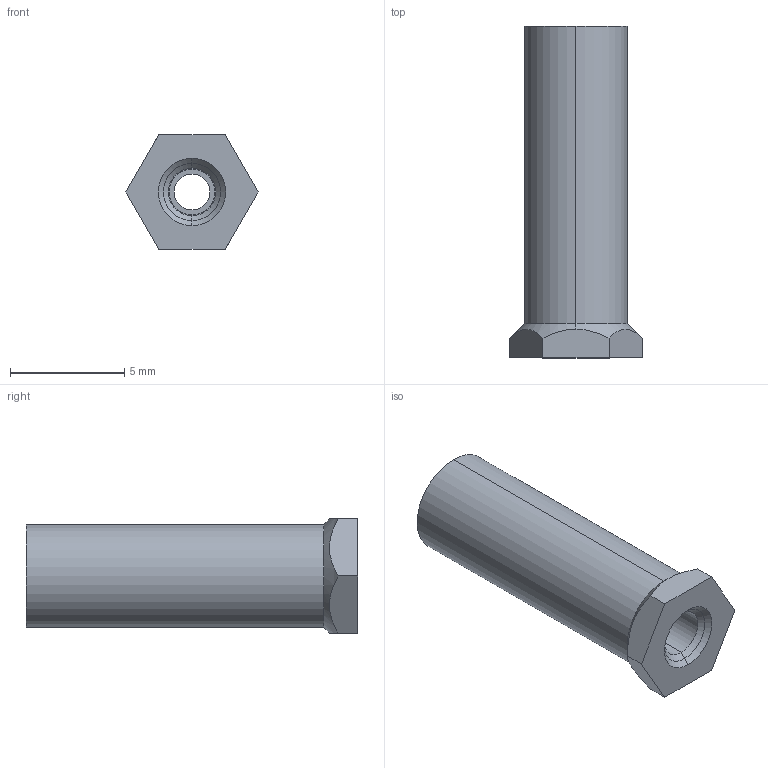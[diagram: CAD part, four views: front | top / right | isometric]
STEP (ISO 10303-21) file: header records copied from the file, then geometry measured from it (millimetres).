
FILE_DESCRIPTION(/* description */ ('VariCAD 2008 1.04 AP-203'),/* implementation_level */ '2;1');
FILE_NAME(/* name */ '0353-20-01',/* time_stamp */ '2008-06-01T22:47:02-06:00',/* author */ (''),/* organization */ (''),/* preprocessor_version */ 'ST-DEVELOPER v10',/* originating_system */ 'VariCAD 2008 1.04; kernel version (20071230)',/* authorisation */ '');
FILE_SCHEMA (('CONFIG_CONTROL_DESIGN'));
Length unit declared in the file: millimetre
Products named in the file (1): Part
Bounding box: 5.77 x 14.5 x 5 mm (x, y, z)
Volume: 194.2 mm3; surface area: 509.9 mm2
Topology: 3 solids, 3 shells, 38 faces, 82 edges, 50 vertices
Faces by surface type: cylinder 16, plane 12, cone 10
Entity records: 1124 total; most frequent: CARTESIAN_POINT 218, DIRECTION 194, ORIENTED_EDGE 164, EDGE_CURVE 82, AXIS2_PLACEMENT_3D 78, VERTEX_POINT 50, EDGE_LOOP 44, ADVANCED_FACE 38
